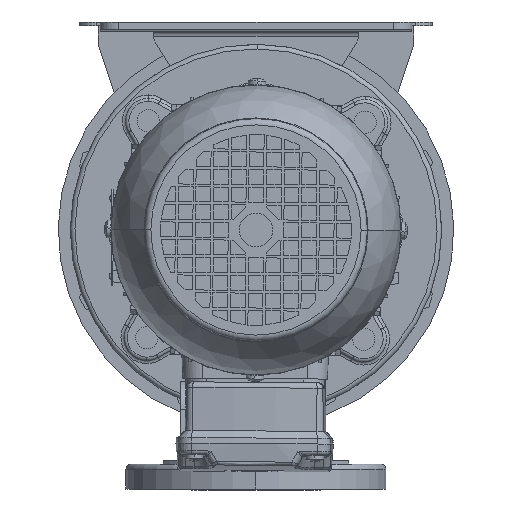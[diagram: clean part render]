
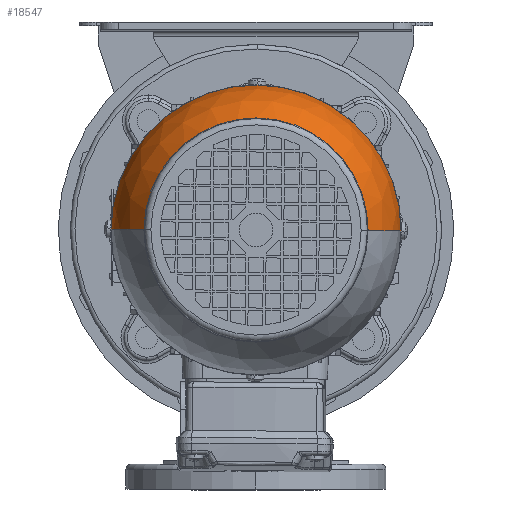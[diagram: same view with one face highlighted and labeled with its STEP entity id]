
A CAD part, front view. The second image highlights one B-rep face of the part: STEP entity #18547.
In plain terms, the highlighted spherical face has radius 78 mm.
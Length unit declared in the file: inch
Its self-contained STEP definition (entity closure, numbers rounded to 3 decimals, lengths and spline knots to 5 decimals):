
#3269 = EDGE_CURVE ( 'NONE', #32798, #51083, #38617, .T. ) ;
#12035 = AXIS2_PLACEMENT_3D ( 'NONE', #86746, #94803, #95419 ) ;
#12879 = ORIENTED_EDGE ( 'NONE', *, *, #22881, .T. ) ;
#18547 = ADVANCED_FACE ( 'NONE', ( #61886 ), #80997, .T. ) ;
#22881 = EDGE_CURVE ( 'NONE', #98388, #51083, #23973, .T. ) ;
#23973 = CIRCLE ( 'NONE', #12035, 3.07087 ) ;
#25152 = DIRECTION ( 'NONE',  ( 1., 0., 0. ) ) ;
#31340 = CARTESIAN_POINT ( 'NONE',  ( -3.25514, 0., 0. ) ) ;
#32798 = VERTEX_POINT ( 'NONE', #105672 ) ;
#35437 = ORIENTED_EDGE ( 'NONE', *, *, #57922, .T. ) ;
#36367 = DIRECTION ( 'NONE',  ( 0., 1., 0. ) ) ;
#38617 = CIRCLE ( 'NONE', #107815, 3.07075 ) ;
#40157 = DIRECTION ( 'NONE',  ( 0., 0., 1. ) ) ;
#40230 = EDGE_LOOP ( 'NONE', ( #67326, #35437, #12879, #108039 ) ) ;
#43280 = CARTESIAN_POINT ( 'NONE',  ( -3.22835, 0., 0. ) ) ;
#51083 = VERTEX_POINT ( 'NONE', #64573 ) ;
#57922 = EDGE_CURVE ( 'NONE', #59717, #98388, #63226, .T. ) ;
#59717 = VERTEX_POINT ( 'NONE', #93366 ) ;
#61229 = AXIS2_PLACEMENT_3D ( 'NONE', #73495, #25152, #36367 ) ;
#61886 = FACE_OUTER_BOUND ( 'NONE', #40230, .T. ) ;
#63226 = CIRCLE ( 'NONE', #61229, 2.37632 ) ;
#64573 = CARTESIAN_POINT ( 'NONE',  ( -3.25514, 3.07075, 0. ) ) ;
#67326 = ORIENTED_EDGE ( 'NONE', *, *, #119174, .F. ) ;
#69133 = DIRECTION ( 'NONE',  ( 0., 1., 0. ) ) ;
#73495 = CARTESIAN_POINT ( 'NONE',  ( -5.17342, 0., 0. ) ) ;
#75905 = CIRCLE ( 'NONE', #121489, 3.07087 ) ;
#79731 = CARTESIAN_POINT ( 'NONE',  ( -3.22835, 0., 0. ) ) ;
#80997 = SPHERICAL_SURFACE ( 'NONE', #118776, 3.07087 ) ;
#86746 = CARTESIAN_POINT ( 'NONE',  ( -3.22835, 0., 0. ) ) ;
#92122 = DIRECTION ( 'NONE',  ( -1., 0., 0. ) ) ;
#93366 = CARTESIAN_POINT ( 'NONE',  ( -5.17342, -2.37632, 0. ) ) ;
#94803 = DIRECTION ( 'NONE',  ( 0., 0., -1. ) ) ;
#95419 = DIRECTION ( 'NONE',  ( -1., 0., 0. ) ) ;
#98388 = VERTEX_POINT ( 'NONE', #99027 ) ;
#99027 = CARTESIAN_POINT ( 'NONE',  ( -5.17342, 2.37632, 0. ) ) ;
#105672 = CARTESIAN_POINT ( 'NONE',  ( -3.25514, -3.07075, 0. ) ) ;
#106370 = DIRECTION ( 'NONE',  ( 0., -1., 0. ) ) ;
#107509 = DIRECTION ( 'NONE',  ( 1., 0., 0. ) ) ;
#107815 = AXIS2_PLACEMENT_3D ( 'NONE', #31340, #107509, #69133 ) ;
#108039 = ORIENTED_EDGE ( 'NONE', *, *, #3269, .F. ) ;
#118776 = AXIS2_PLACEMENT_3D ( 'NONE', #43280, #92122, #118815 ) ;
#118815 = DIRECTION ( 'NONE',  ( 0., 1., 0. ) ) ;
#119174 = EDGE_CURVE ( 'NONE', #59717, #32798, #75905, .T. ) ;
#121489 = AXIS2_PLACEMENT_3D ( 'NONE', #79731, #40157, #106370 ) ;
